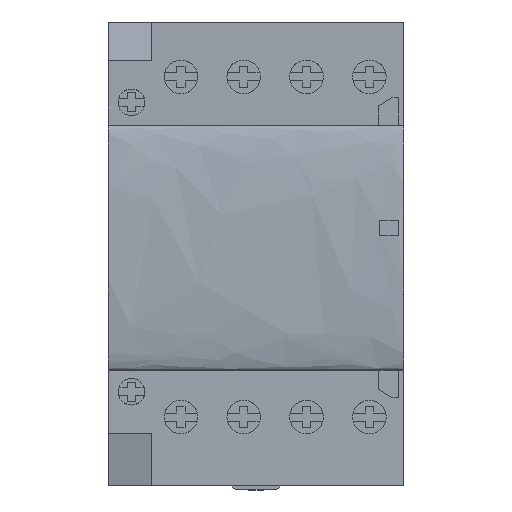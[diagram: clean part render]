
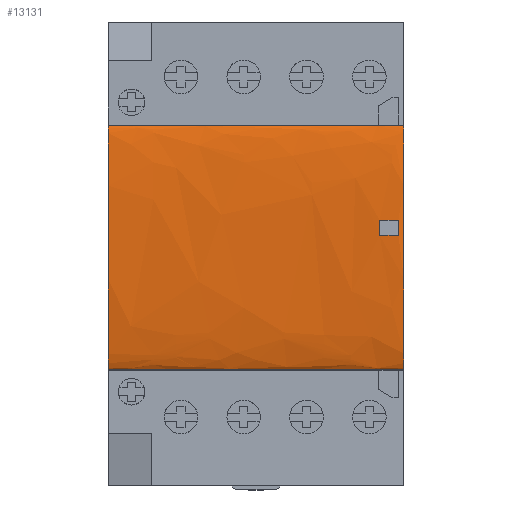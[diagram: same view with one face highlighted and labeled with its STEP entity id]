
A CAD part, top view. The second image highlights one B-rep face of the part: STEP entity #13131.
In plain terms, the highlighted free-form (B-spline) face has degree [3, 1] with [4, 2] control points.
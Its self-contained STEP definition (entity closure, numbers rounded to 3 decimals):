
#243 = ORIENTED_EDGE ( 'NONE', *, *, #12048, .F. ) ;
#268 = CARTESIAN_POINT ( 'NONE',  ( 54.45, 66.35, 65.5 ) ) ;
#348 = ORIENTED_EDGE ( 'NONE', *, *, #11531, .F. ) ;
#464 = LINE ( 'NONE', #4198, #6153 ) ;
#733 = CARTESIAN_POINT ( 'NONE',  ( 50., 48.85, 67.683 ) ) ;
#1031 = EDGE_CURVE ( 'NONE', #12353, #11649, #6275, .T. ) ;
#1287 = CARTESIAN_POINT ( 'NONE',  ( 54.45, 21.25, 65.5 ) ) ;
#1294 = FACE_OUTER_BOUND ( 'NONE', #14252, .T. ) ;
#1519 = DIRECTION ( 'NONE',  ( -1., 0., 0. ) ) ;
#1571 = CARTESIAN_POINT ( 'NONE',  ( 53.45, 46.05, 67.729 ) ) ;
#1686 = CARTESIAN_POINT ( 'NONE',  ( 0., 21.25, 69.98 ) ) ;
#1803 = ORIENTED_EDGE ( 'NONE', *, *, #14695, .T. ) ;
#2283 = CARTESIAN_POINT ( 'NONE',  ( 0., 21.25, 65.5 ) ) ;
#2551 = ORIENTED_EDGE ( 'NONE', *, *, #10688, .F. ) ;
#2665 =( BOUNDED_CURVE ( )  B_SPLINE_CURVE ( 3, ( #5959, #5879, #10919, #15872 ),
 .UNSPECIFIED., .F., .F. ) 
 B_SPLINE_CURVE_WITH_KNOTS ( ( 4, 4 ),
 ( 3.142, 6.283 ),
 .UNSPECIFIED. ) 
 CURVE ( )  GEOMETRIC_REPRESENTATION_ITEM ( )  RATIONAL_B_SPLINE_CURVE ( ( 1., 0.333, 0.333, 1. ) ) 
 REPRESENTATION_ITEM ( '' )  );
#2858 = CARTESIAN_POINT ( 'NONE',  ( 54.45, 21.25, 65.5 ) ) ;
#3488 = ORIENTED_EDGE ( 'NONE', *, *, #1031, .F. ) ;
#3769 = CARTESIAN_POINT ( 'NONE',  ( 53.45, 48.85, 67.683 ) ) ;
#3954 = DIRECTION ( 'NONE',  ( -1., 0., 0. ) ) ;
#4034 = CARTESIAN_POINT ( 'NONE',  ( 53.45, 48.85, 67.683 ) ) ;
#4198 = CARTESIAN_POINT ( 'NONE',  ( 54.45, 66.35, 65.5 ) ) ;
#4419 = VERTEX_POINT ( 'NONE', #9432 ) ;
#4800 = VERTEX_POINT ( 'NONE', #11916 ) ;
#4972 = CARTESIAN_POINT ( 'NONE',  ( 54.45, 21.25, 69.98 ) ) ;
#5182 = CARTESIAN_POINT ( 'NONE',  ( 0., 66.35, 65.5 ) ) ;
#5260 = CARTESIAN_POINT ( 'NONE',  ( 0., 66.35, 69.98 ) ) ;
#5267 = VERTEX_POINT ( 'NONE', #10176 ) ;
#5500 = CARTESIAN_POINT ( 'NONE',  ( 54.45, 21.25, 69.98 ) ) ;
#5588 = VECTOR ( 'NONE', #9648, 1000. ) ;
#5839 = ORIENTED_EDGE ( 'NONE', *, *, #8067, .T. ) ;
#5879 = CARTESIAN_POINT ( 'NONE',  ( 0., 21.25, 69.98 ) ) ;
#5919 = CARTESIAN_POINT ( 'NONE',  ( 50., 48.85, 67.683 ) ) ;
#5959 = CARTESIAN_POINT ( 'NONE',  ( 0., 21.25, 65.5 ) ) ;
#5997 = LINE ( 'NONE', #15825, #5588 ) ;
#6153 = VECTOR ( 'NONE', #11745, 1000. ) ;
#6275 = B_SPLINE_CURVE_WITH_KNOTS ( 'NONE', 3,
 ( #16060, #12642, #14853, #4034 ),
 .UNSPECIFIED., .F., .F.,
 ( 4, 4 ),
 ( 0., 1. ),
 .UNSPECIFIED. ) ;
#6500 =( BOUNDED_CURVE ( )  B_SPLINE_CURVE ( 3, ( #2858, #4972, #11302, #268 ),
 .UNSPECIFIED., .F., .F. ) 
 B_SPLINE_CURVE_WITH_KNOTS ( ( 4, 4 ),
 ( 3.142, 6.283 ),
 .UNSPECIFIED. ) 
 CURVE ( )  GEOMETRIC_REPRESENTATION_ITEM ( )  RATIONAL_B_SPLINE_CURVE ( ( 1., 0.333, 0.333, 1. ) ) 
 REPRESENTATION_ITEM ( '' )  );
#7141 = CARTESIAN_POINT ( 'NONE',  ( 50., 46.992, 67.719 ) ) ;
#7448 = LINE ( 'NONE', #1287, #15997 ) ;
#7630 =( BOUNDED_SURFACE ( )  B_SPLINE_SURFACE ( 3, 1, ( 
 ( #7694, #14113 ),
 ( #5500, #1686 ),
 ( #11513, #5260 ),
 ( #13873, #5182 ) ),
 .UNSPECIFIED., .F., .F., .F. ) 
 B_SPLINE_SURFACE_WITH_KNOTS ( ( 4, 4 ),
 ( 2, 2 ),
 ( 0., 1. ),
 ( 0., 1. ),
 .UNSPECIFIED. ) 
 GEOMETRIC_REPRESENTATION_ITEM ( )  RATIONAL_B_SPLINE_SURFACE ( (
 ( 1., 1.),
 ( 0.333, 0.333),
 ( 0.333, 0.333),
 ( 1., 1.) ) ) 
 REPRESENTATION_ITEM ( '' )  SURFACE ( )  );
#7694 = CARTESIAN_POINT ( 'NONE',  ( 54.45, 21.25, 65.5 ) ) ;
#8067 = EDGE_CURVE ( 'NONE', #10184, #11849, #11670, .T. ) ;
#8754 = EDGE_CURVE ( 'NONE', #4800, #5267, #6500, .T. ) ;
#9425 = CARTESIAN_POINT ( 'NONE',  ( 50., 46.05, 67.729 ) ) ;
#9432 = CARTESIAN_POINT ( 'NONE',  ( 0., 66.35, 65.5 ) ) ;
#9648 = DIRECTION ( 'NONE',  ( -1., 0., 0. ) ) ;
#10075 = EDGE_LOOP ( 'NONE', ( #1803, #5839, #2551, #3488 ) ) ;
#10176 = CARTESIAN_POINT ( 'NONE',  ( 54.45, 66.35, 65.5 ) ) ;
#10184 = VERTEX_POINT ( 'NONE', #9425 ) ;
#10313 = VERTEX_POINT ( 'NONE', #2283 ) ;
#10688 = EDGE_CURVE ( 'NONE', #11649, #11849, #5997, .T. ) ;
#10891 = CARTESIAN_POINT ( 'NONE',  ( 50., 47.927, 67.704 ) ) ;
#10919 = CARTESIAN_POINT ( 'NONE',  ( 0., 66.35, 69.98 ) ) ;
#10966 = EDGE_CURVE ( 'NONE', #5267, #4419, #464, .T. ) ;
#11302 = CARTESIAN_POINT ( 'NONE',  ( 54.45, 66.35, 69.98 ) ) ;
#11513 = CARTESIAN_POINT ( 'NONE',  ( 54.45, 66.35, 69.98 ) ) ;
#11531 = EDGE_CURVE ( 'NONE', #10313, #4419, #2665, .T. ) ;
#11649 = VERTEX_POINT ( 'NONE', #3769 ) ;
#11670 =( BOUNDED_CURVE ( )  B_SPLINE_CURVE ( 3, ( #14299, #7141, #10891, #733 ),
 .UNSPECIFIED., .F., .F. ) 
 B_SPLINE_CURVE_WITH_KNOTS ( ( 4, 4 ),
 ( 0., 1. ),
 .UNSPECIFIED. ) 
 CURVE ( )  GEOMETRIC_REPRESENTATION_ITEM ( )  RATIONAL_B_SPLINE_CURVE ( ( 1., 0.999, 0.999, 1. ) ) 
 REPRESENTATION_ITEM ( '' )  );
#11745 = DIRECTION ( 'NONE',  ( -1., 0., 0. ) ) ;
#11849 = VERTEX_POINT ( 'NONE', #5919 ) ;
#11916 = CARTESIAN_POINT ( 'NONE',  ( 54.45, 21.25, 65.5 ) ) ;
#12048 = EDGE_CURVE ( 'NONE', #4800, #10313, #7448, .T. ) ;
#12353 = VERTEX_POINT ( 'NONE', #1571 ) ;
#12418 = FACE_BOUND ( 'NONE', #10075, .T. ) ;
#12560 = LINE ( 'NONE', #14016, #14337 ) ;
#12642 = CARTESIAN_POINT ( 'NONE',  ( 53.45, 46.993, 67.719 ) ) ;
#12843 = ORIENTED_EDGE ( 'NONE', *, *, #8754, .T. ) ;
#13131 = ADVANCED_FACE ( 'NONE', ( #12418, #1294 ), #7630, .T. ) ;
#13873 = CARTESIAN_POINT ( 'NONE',  ( 54.45, 66.35, 65.5 ) ) ;
#14000 = ORIENTED_EDGE ( 'NONE', *, *, #10966, .T. ) ;
#14016 = CARTESIAN_POINT ( 'NONE',  ( 27.225, 46.05, 67.729 ) ) ;
#14113 = CARTESIAN_POINT ( 'NONE',  ( 0., 21.25, 65.5 ) ) ;
#14252 = EDGE_LOOP ( 'NONE', ( #243, #12843, #14000, #348 ) ) ;
#14299 = CARTESIAN_POINT ( 'NONE',  ( 50., 46.05, 67.729 ) ) ;
#14337 = VECTOR ( 'NONE', #3954, 1000. ) ;
#14695 = EDGE_CURVE ( 'NONE', #12353, #10184, #12560, .T. ) ;
#14853 = CARTESIAN_POINT ( 'NONE',  ( 53.45, 47.926, 67.704 ) ) ;
#15825 = CARTESIAN_POINT ( 'NONE',  ( 27.225, 48.85, 67.683 ) ) ;
#15872 = CARTESIAN_POINT ( 'NONE',  ( 0., 66.35, 65.5 ) ) ;
#15997 = VECTOR ( 'NONE', #1519, 1000. ) ;
#16060 = CARTESIAN_POINT ( 'NONE',  ( 53.45, 46.05, 67.729 ) ) ;
